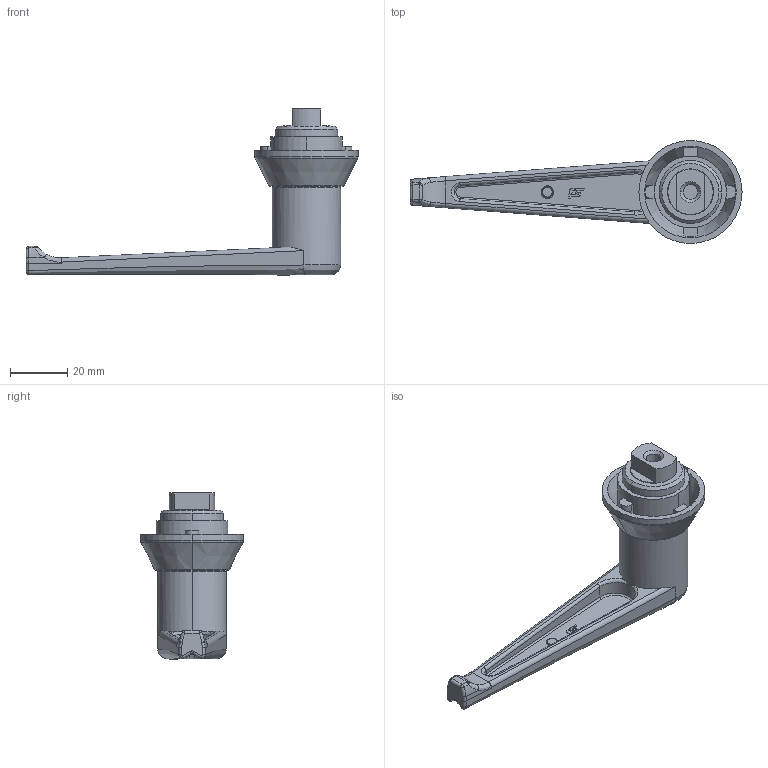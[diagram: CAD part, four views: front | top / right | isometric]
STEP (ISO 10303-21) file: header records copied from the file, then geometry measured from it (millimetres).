
FILE_DESCRIPTION((''),'2;1');
FILE_NAME('3SJ_MS301-1_0001_ASM','2016-07-13T',('Administrator'),(''),'PRO/ENGINEER BY PARAMETRIC TECHNOLOGY CORPORATION, 2009060','PRO/ENGINEER BY PARAMETRIC TECHNOLOGY CORPORATION, 2009060','');
FILE_SCHEMA(('CONFIG_CONTROL_DESIGN'));
Length unit declared in the file: millimetre
Products named in the file (3): 8SJ_MS304_0010; 8SJ_MS301-1_0020_AF0; 3SJ_MS301-1_0001_ASM
Assembly tree (2 placements, depth 2):
  3SJ_MS301-1_0001_ASM
    8SJ_MS304_0010
    8SJ_MS301-1_0020_AF0
Bounding box: 116 x 36 x 58 mm (x, y, z)
Volume: 31671.9 mm3; surface area: 15068.2 mm2
Topology: 2 solids, 2 shells, 204 faces, 515 edges, 322 vertices
Faces by surface type: plane 78, cylinder 51, bspline 50, torus 12, cone 8, sphere 5
Entity records: 9655 total; most frequent: CARTESIAN_POINT 4915, ORIENTED_EDGE 1030, DIRECTION 915, EDGE_CURVE 515, AXIS2_PLACEMENT_3D 348, VERTEX_POINT 322, VECTOR 219, LINE 219
